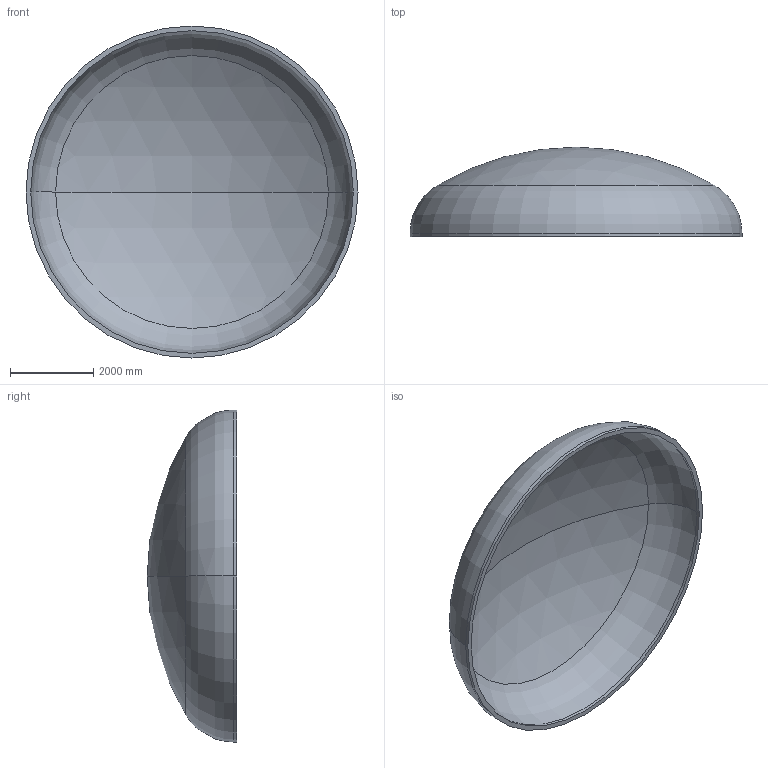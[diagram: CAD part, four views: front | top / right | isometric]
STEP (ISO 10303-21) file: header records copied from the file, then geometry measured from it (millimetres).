
FILE_DESCRIPTION (( 'STEP AP203' ), '1' );
FILE_NAME ('DIN 28013 Korbbogenform_-_Boden DIN 28013 - 8000 x 75 - I - s=114.step', '2016-07-04T11:05:56', ( '' ), ( '' ), 'SwSTEP 2.0', 'SolidWorks 2013', '' );
FILE_SCHEMA (( 'CONFIG_CONTROL_DESIGN' ));
Length unit declared in the file: millimetre
Products named in the file (1): DIN 28013 Korbbogenform_-_Boden DIN 28013 - 8000 x 75 - I - s=114
Bounding box: 8000 x 2153.4 x 8000 mm (x, y, z)
Volume: 7997658054.3 mm3; surface area: 143161259.4 mm2
Topology: 1 solids, 1 shells, 13 faces, 24 edges, 14 vertices
Faces by surface type: torus 4, cylinder 4, sphere 4, plane 1
Entity records: 407 total; most frequent: DIRECTION 72, CARTESIAN_POINT 52, ORIENTED_EDGE 48, AXIS2_PLACEMENT_3D 34, EDGE_CURVE 24, CIRCLE 20, VERTEX_POINT 14, EDGE_LOOP 14
